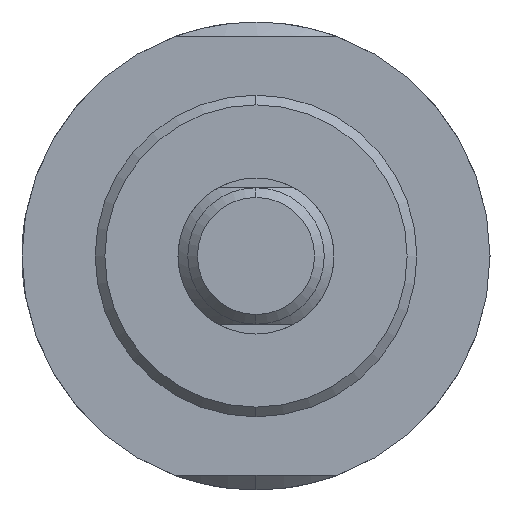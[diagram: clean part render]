
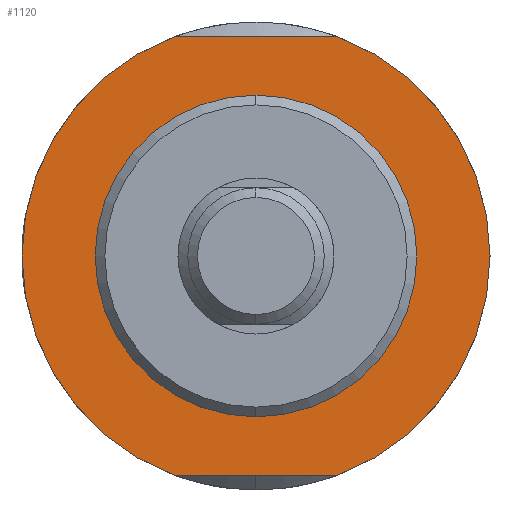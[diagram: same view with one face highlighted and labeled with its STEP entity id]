
A CAD part, left-side view. The second image highlights one B-rep face of the part: STEP entity #1120.
In plain terms, the highlighted planar face has unit normal (-1, 0, 0).
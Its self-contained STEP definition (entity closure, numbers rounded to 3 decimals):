
#16 = CIRCLE ( 'NONE', #491, 16.5 ) ;
#57 = PLANE ( 'NONE',  #144 ) ;
#70 = DIRECTION ( 'NONE',  ( -1., 0., 0. ) ) ;
#144 = AXIS2_PLACEMENT_3D ( 'NONE', #1814, #369, #1670 ) ;
#207 = CARTESIAN_POINT ( 'NONE',  ( 50., 15., 22.5 ) ) ;
#232 = AXIS2_PLACEMENT_3D ( 'NONE', #1967, #70, #661 ) ;
#257 = VERTEX_POINT ( 'NONE', #681 ) ;
#267 = FACE_BOUND ( 'NONE', #1333, .T. ) ;
#281 = DIRECTION ( 'NONE',  ( -1., 0., 0. ) ) ;
#311 = DIRECTION ( 'NONE',  ( 0., 1., 0. ) ) ;
#369 = DIRECTION ( 'NONE',  ( 1., 0., 0. ) ) ;
#382 = CARTESIAN_POINT ( 'NONE',  ( 50., 0., 0. ) ) ;
#423 = CARTESIAN_POINT ( 'NONE',  ( 50., 0., 0. ) ) ;
#428 = VECTOR ( 'NONE', #311, 1000. ) ;
#471 = FACE_OUTER_BOUND ( 'NONE', #1324, .T. ) ;
#491 = AXIS2_PLACEMENT_3D ( 'NONE', #1522, #1792, #1991 ) ;
#610 = CARTESIAN_POINT ( 'NONE',  ( 50., -8.352, -22.5 ) ) ;
#611 = CIRCLE ( 'NONE', #232, 24. ) ;
#661 = DIRECTION ( 'NONE',  ( 0., 0., 1. ) ) ;
#681 = CARTESIAN_POINT ( 'NONE',  ( 50., -8.352, 22.5 ) ) ;
#709 = DIRECTION ( 'NONE',  ( 0., 0., 1. ) ) ;
#745 = ORIENTED_EDGE ( 'NONE', *, *, #903, .F. ) ;
#783 = CARTESIAN_POINT ( 'NONE',  ( 50., 0., -16.5 ) ) ;
#793 = EDGE_CURVE ( 'NONE', #1270, #1740, #611, .T. ) ;
#805 = LINE ( 'NONE', #207, #1176 ) ;
#817 = ORIENTED_EDGE ( 'NONE', *, *, #1933, .F. ) ;
#851 = ORIENTED_EDGE ( 'NONE', *, *, #1277, .F. ) ;
#903 = EDGE_CURVE ( 'NONE', #1270, #257, #805, .T. ) ;
#975 = ORIENTED_EDGE ( 'NONE', *, *, #1014, .T. ) ;
#990 = CARTESIAN_POINT ( 'NONE',  ( 50., 15., -22.5 ) ) ;
#1014 = EDGE_CURVE ( 'NONE', #1813, #257, #1688, .T. ) ;
#1065 = CARTESIAN_POINT ( 'NONE',  ( 50., 0., 16.5 ) ) ;
#1094 = AXIS2_PLACEMENT_3D ( 'NONE', #423, #1735, #709 ) ;
#1120 = ADVANCED_FACE ( 'NONE', ( #267, #471 ), #57, .F. ) ;
#1176 = VECTOR ( 'NONE', #1341, 1000. ) ;
#1206 = DIRECTION ( 'NONE',  ( 0., 0., 1. ) ) ;
#1270 = VERTEX_POINT ( 'NONE', #1824 ) ;
#1277 = EDGE_CURVE ( 'NONE', #1813, #1740, #1969, .T. ) ;
#1324 = EDGE_LOOP ( 'NONE', ( #1524, #851, #975, #745 ) ) ;
#1333 = EDGE_LOOP ( 'NONE', ( #1937, #817 ) ) ;
#1341 = DIRECTION ( 'NONE',  ( 0., -1., 0. ) ) ;
#1522 = CARTESIAN_POINT ( 'NONE',  ( 50., 0., 0. ) ) ;
#1524 = ORIENTED_EDGE ( 'NONE', *, *, #793, .T. ) ;
#1592 = VERTEX_POINT ( 'NONE', #1065 ) ;
#1628 = CIRCLE ( 'NONE', #1094, 16.5 ) ;
#1670 = DIRECTION ( 'NONE',  ( 0., 0., -1. ) ) ;
#1688 = CIRCLE ( 'NONE', #1725, 24. ) ;
#1715 = EDGE_CURVE ( 'NONE', #1592, #1905, #1628, .T. ) ;
#1725 = AXIS2_PLACEMENT_3D ( 'NONE', #382, #281, #1206 ) ;
#1735 = DIRECTION ( 'NONE',  ( -1., 0., 0. ) ) ;
#1740 = VERTEX_POINT ( 'NONE', #1926 ) ;
#1792 = DIRECTION ( 'NONE',  ( -1., 0., 0. ) ) ;
#1813 = VERTEX_POINT ( 'NONE', #610 ) ;
#1814 = CARTESIAN_POINT ( 'NONE',  ( 50., 0., -24. ) ) ;
#1824 = CARTESIAN_POINT ( 'NONE',  ( 50., 8.352, 22.5 ) ) ;
#1905 = VERTEX_POINT ( 'NONE', #783 ) ;
#1926 = CARTESIAN_POINT ( 'NONE',  ( 50., 8.352, -22.5 ) ) ;
#1933 = EDGE_CURVE ( 'NONE', #1905, #1592, #16, .T. ) ;
#1937 = ORIENTED_EDGE ( 'NONE', *, *, #1715, .F. ) ;
#1967 = CARTESIAN_POINT ( 'NONE',  ( 50., 0., 0. ) ) ;
#1969 = LINE ( 'NONE', #990, #428 ) ;
#1991 = DIRECTION ( 'NONE',  ( 0., 0., 1. ) ) ;
